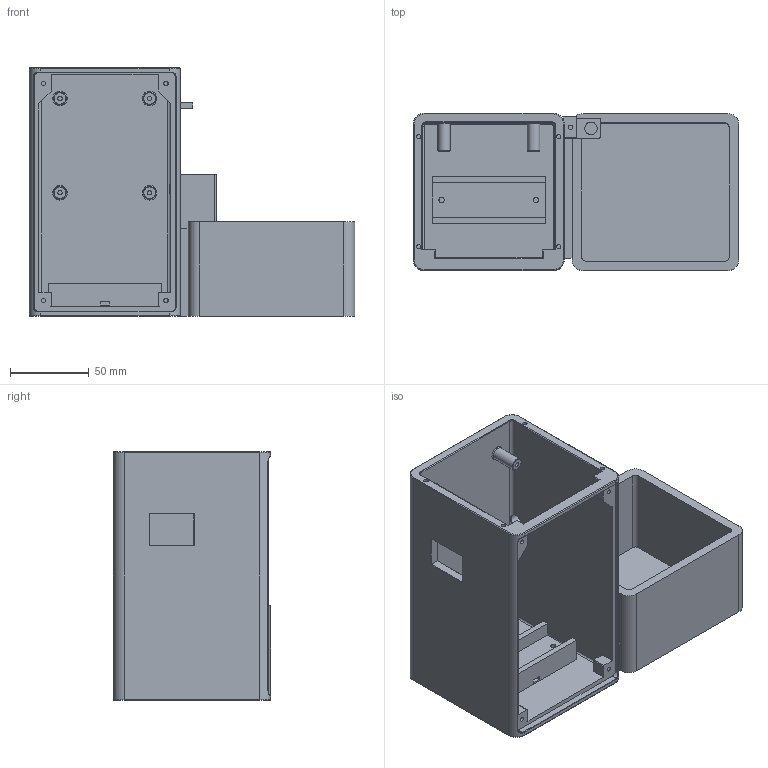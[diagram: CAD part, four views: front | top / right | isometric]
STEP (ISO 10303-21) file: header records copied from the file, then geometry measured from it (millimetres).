
FILE_DESCRIPTION(('Open CASCADE Model'),'2;1');
FILE_NAME('Open CASCADE Shape Model','2026-09-13T21:26:55',('Author'),( 'Open CASCADE'),'Open CASCADE STEP processor 7.9','Open CASCADE 7.9' ,'Unknown');
FILE_SCHEMA(('AUTOMOTIVE_DESIGN { 1 0 10303 214 1 1 1 1 }'));
Length unit declared in the file: millimetre
Products named in the file (1): Open CASCADE STEP translator 7.9 5
Bounding box: 207 x 100 x 158 mm (x, y, z)
Volume: 536719.8 mm3; surface area: 176669.8 mm2
Topology: 1 solids, 1 shells, 214 faces, 526 edges, 328 vertices
Faces by surface type: plane 116, cylinder 70, torus 20, bspline 4, cone 4
Full cylindrical faces by diameter (mm): 2.8 x13, 3.4 x2, 8 x7
Entity records: 14825 total; most frequent: CARTESIAN_POINT 4410, DIRECTION 1905, ORIENTED_EDGE 1052, PCURVE 1052, DEFINITIONAL_REPRESENTATION 1052, LINE 1038, VECTOR 1038, EDGE_CURVE 526
